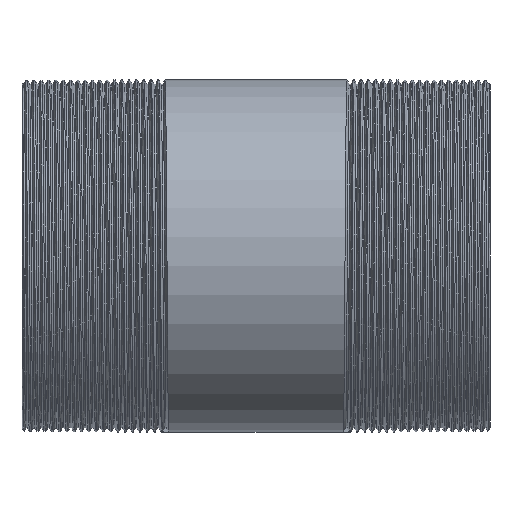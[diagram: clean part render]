
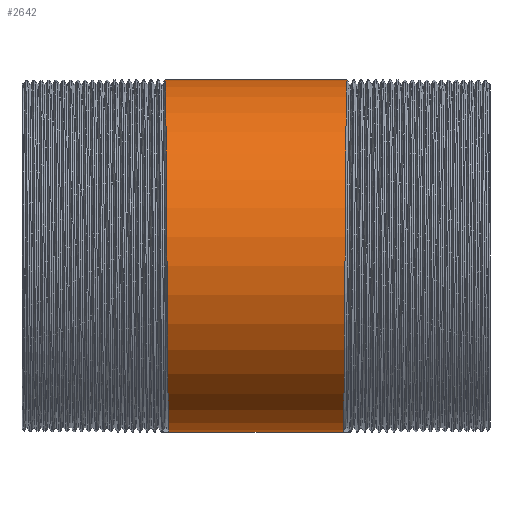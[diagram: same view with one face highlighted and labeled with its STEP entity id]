
A CAD part, front view. The second image highlights one B-rep face of the part: STEP entity #2642.
In plain terms, the highlighted cylindrical face has radius 30.15 mm (diameter 60.3 mm), a partial arc.
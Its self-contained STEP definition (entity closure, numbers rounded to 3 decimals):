
#310 = CARTESIAN_POINT ( 'NONE',  ( -149.494, 0., 0. ) ) ;
#370 = CARTESIAN_POINT ( 'NONE',  ( -14.984, -12.489, -30.15 ) ) ;
#471 = DIRECTION ( 'NONE',  ( -1., 0., 0. ) ) ;
#474 = EDGE_CURVE ( 'NONE', #11895, #13487, #6027, .T. ) ;
#645 = VECTOR ( 'NONE', #15794, 1000. ) ;
#942 = CARTESIAN_POINT ( 'NONE',  ( 15.141, -30.15, -12.489 ) ) ;
#1586 = CARTESIAN_POINT ( 'NONE',  ( -15.531, 0., 30.15 ) ) ;
#2057 = DIRECTION ( 'NONE',  ( 0., 0., 1. ) ) ;
#2539 = VERTEX_POINT ( 'NONE', #7790 ) ;
#2642 = ADVANCED_FACE ( 'NONE', ( #4741 ), #4658, .T. ) ;
#3263 =( BOUNDED_CURVE ( )  B_SPLINE_CURVE ( 2, ( #17042, #370, #4357, #4167, #9804, #8612, #15465, #14255, #1586 ),
 .UNSPECIFIED., .F., .F. ) 
 B_SPLINE_CURVE_WITH_KNOTS ( ( 3, 2, 2, 2, 3 ),
 ( 0., 0.006, 0.013, 0.019, 0.025 ),
 .UNSPECIFIED. ) 
 CURVE ( )  GEOMETRIC_REPRESENTATION_ITEM ( )  RATIONAL_B_SPLINE_CURVE ( ( 1., 0.924, 1., 0.924, 1., 0.924, 1., 0.924, 1. ) ) 
 REPRESENTATION_ITEM ( '' )  );
#4167 = CARTESIAN_POINT ( 'NONE',  ( -15.141, -30.15, -12.489 ) ) ;
#4357 = CARTESIAN_POINT ( 'NONE',  ( -15.063, -21.319, -21.319 ) ) ;
#4646 = CARTESIAN_POINT ( 'NONE',  ( 14.906, 0., -30.15 ) ) ;
#4658 = CYLINDRICAL_SURFACE ( 'NONE', #10911, 30.15 ) ;
#4709 = VECTOR ( 'NONE', #471, 1000. ) ;
#4741 = FACE_OUTER_BOUND ( 'NONE', #5961, .T. ) ;
#5470 = CARTESIAN_POINT ( 'NONE',  ( 15.297, -30.15, 12.489 ) ) ;
#5961 = EDGE_LOOP ( 'NONE', ( #8772, #13108, #8892, #13833 ) ) ;
#6027 = LINE ( 'NONE', #8978, #4709 ) ;
#6672 = CARTESIAN_POINT ( 'NONE',  ( 15.453, -12.489, 30.15 ) ) ;
#7790 = CARTESIAN_POINT ( 'NONE',  ( -15.531, 0., 30.15 ) ) ;
#7830 = EDGE_CURVE ( 'NONE', #8194, #2539, #11885, .T. ) ;
#8194 = VERTEX_POINT ( 'NONE', #15067 ) ;
#8612 = CARTESIAN_POINT ( 'NONE',  ( -15.297, -30.15, 12.489 ) ) ;
#8772 = ORIENTED_EDGE ( 'NONE', *, *, #474, .F. ) ;
#8892 = ORIENTED_EDGE ( 'NONE', *, *, #7830, .T. ) ;
#8978 = CARTESIAN_POINT ( 'NONE',  ( -149.494, 0., -30.15 ) ) ;
#9447 = CARTESIAN_POINT ( 'NONE',  ( 14.984, -12.489, -30.15 ) ) ;
#9804 = CARTESIAN_POINT ( 'NONE',  ( -15.219, -30.15, 0. ) ) ;
#10495 = CARTESIAN_POINT ( 'NONE',  ( -14.906, 0., -30.15 ) ) ;
#10911 = AXIS2_PLACEMENT_3D ( 'NONE', #310, #14736, #2057 ) ;
#11696 = EDGE_CURVE ( 'NONE', #11895, #8194, #17329, .T. ) ;
#11885 = LINE ( 'NONE', #13098, #645 ) ;
#11895 = VERTEX_POINT ( 'NONE', #4646 ) ;
#13056 = EDGE_CURVE ( 'NONE', #13487, #2539, #3263, .T. ) ;
#13098 = CARTESIAN_POINT ( 'NONE',  ( -149.494, 0., 30.15 ) ) ;
#13108 = ORIENTED_EDGE ( 'NONE', *, *, #11696, .T. ) ;
#13487 = VERTEX_POINT ( 'NONE', #10495 ) ;
#13833 = ORIENTED_EDGE ( 'NONE', *, *, #13056, .F. ) ;
#13985 = CARTESIAN_POINT ( 'NONE',  ( 15.531, 0., 30.15 ) ) ;
#14255 = CARTESIAN_POINT ( 'NONE',  ( -15.453, -12.489, 30.15 ) ) ;
#14736 = DIRECTION ( 'NONE',  ( -1., 0., 0. ) ) ;
#15014 = CARTESIAN_POINT ( 'NONE',  ( 14.906, 0., -30.15 ) ) ;
#15067 = CARTESIAN_POINT ( 'NONE',  ( 15.531, 0., 30.15 ) ) ;
#15198 = CARTESIAN_POINT ( 'NONE',  ( 15.375, -21.319, 21.319 ) ) ;
#15465 = CARTESIAN_POINT ( 'NONE',  ( -15.375, -21.319, 21.319 ) ) ;
#15794 = DIRECTION ( 'NONE',  ( -1., 0., 0. ) ) ;
#17042 = CARTESIAN_POINT ( 'NONE',  ( -14.906, 0., -30.15 ) ) ;
#17329 =( BOUNDED_CURVE ( )  B_SPLINE_CURVE ( 2, ( #15014, #9447, #17888, #942, #18164, #5470, #15198, #6672, #13985 ),
 .UNSPECIFIED., .F., .T. ) 
 B_SPLINE_CURVE_WITH_KNOTS ( ( 3, 2, 2, 2, 3 ),
 ( 0., 0.006, 0.013, 0.019, 0.025 ),
 .UNSPECIFIED. ) 
 CURVE ( )  GEOMETRIC_REPRESENTATION_ITEM ( )  RATIONAL_B_SPLINE_CURVE ( ( 1., 0.924, 1., 0.924, 1., 0.924, 1., 0.924, 1. ) ) 
 REPRESENTATION_ITEM ( '' )  );
#17888 = CARTESIAN_POINT ( 'NONE',  ( 15.063, -21.319, -21.319 ) ) ;
#18164 = CARTESIAN_POINT ( 'NONE',  ( 15.219, -30.15, 0. ) ) ;
